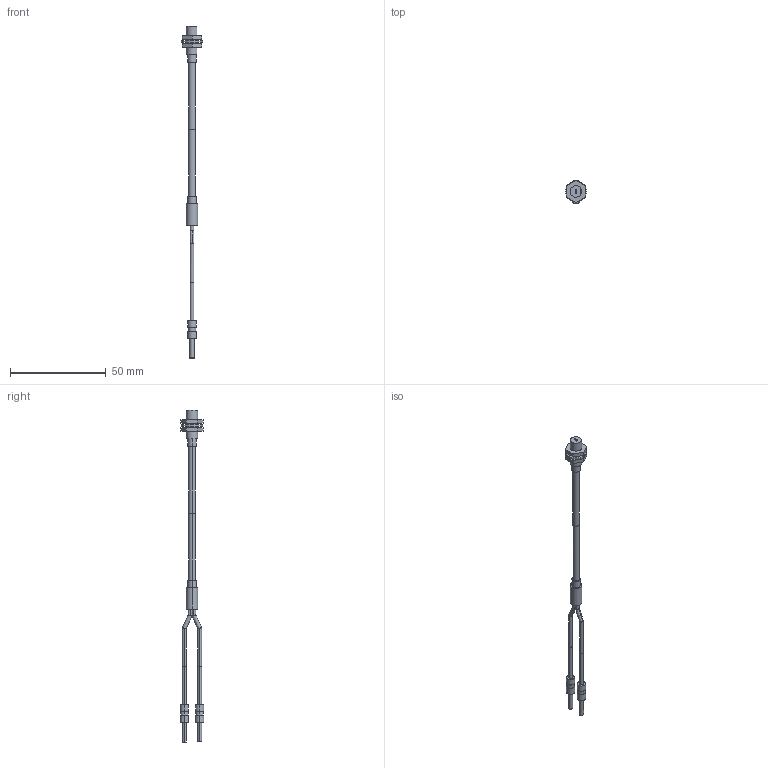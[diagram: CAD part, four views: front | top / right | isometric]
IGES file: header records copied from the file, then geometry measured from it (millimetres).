
Start section: SolidWorks IGES FILE using analytic representation for surfaces
Global section: file name: C:\Documents and Settings\yk0651\デスクトップ\3D_catalog_050904\0_IGES\FD-P81X.IGS; native system: SolidWorks 2004 by SolidWorks Corporation; preprocessor: Version 5.3; author: yk0651; date: 050904.191601; units: millimetre
Bounding box: 11 x 12.33 x 173.5 mm (x, y, z)
Volume: 2484.2 mm3; surface area: 3212 mm2
Topology: 7 solids, 7 shells, 98 faces, 204 edges, 136 vertices
Faces by surface type: revolution 55, plane 43
